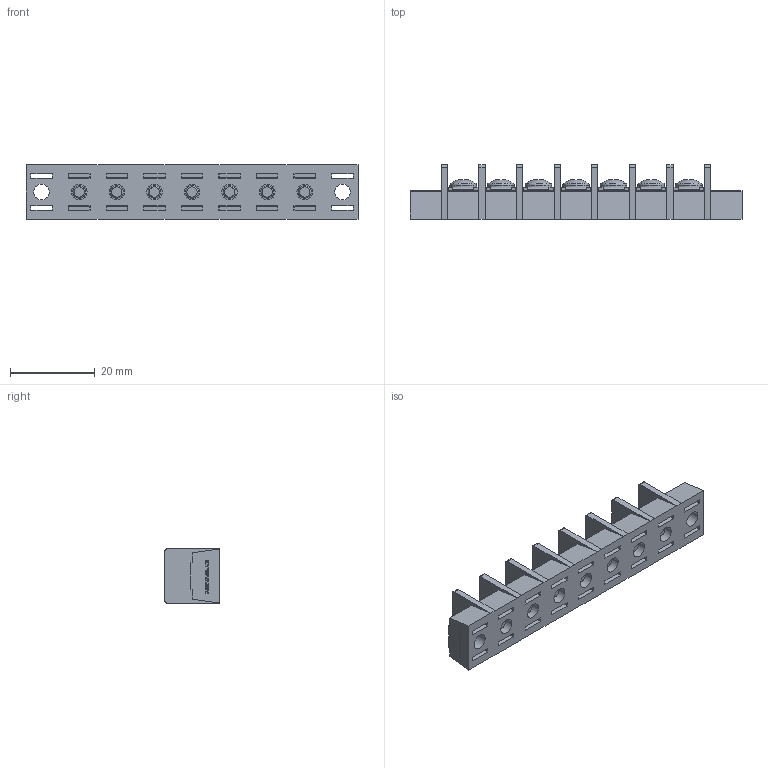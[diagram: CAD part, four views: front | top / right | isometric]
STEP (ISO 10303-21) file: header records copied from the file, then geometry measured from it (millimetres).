
FILE_DESCRIPTION(/* description */ ('Alibre Inc.'),/* implementation_level */ '2;1');
FILE_NAME(/* name */ 'export0',/* time_stamp */ '2015-10-20T20:37:10+09:00',/* author */ (''),/* organization */ (''),/* preprocessor_version */ 'ST-DEVELOPER v14',/* originating_system */ 'Alibre',/* authorisation */ '');
FILE_SCHEMA (('CONFIG_CONTROL_DESIGN'));
Length unit declared in the file: centimetre
Products named in the file (1): ID_1
Bounding box: 78.52 x 12.8 x 12.8 mm (x, y, z)
Volume: 6751.4 mm3; surface area: 8216.3 mm2
Topology: 1 solids, 120 shells, 2351 faces, 6023 edges, 3982 vertices
Faces by surface type: plane 1758, bspline 468, cylinder 69, cone 35, torus 14, sphere 7
Full cylindrical faces by diameter (mm): 3 x14, 3.7 x9, 4.6 x9, 6.3 x7
Entity records: 68103 total; most frequent: CARTESIAN_POINT 16537, ORIENTED_EDGE 11908, DIRECTION 7100, EDGE_CURVE 5954, VECTOR 4605, LINE 4605, VERTEX_POINT 3973, EDGE_LOOP 2591
